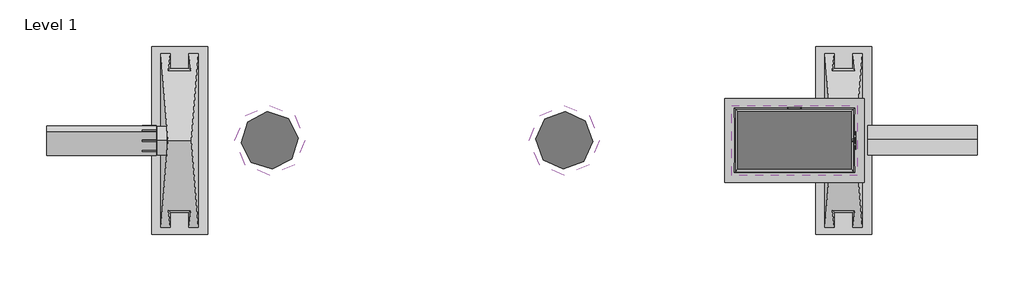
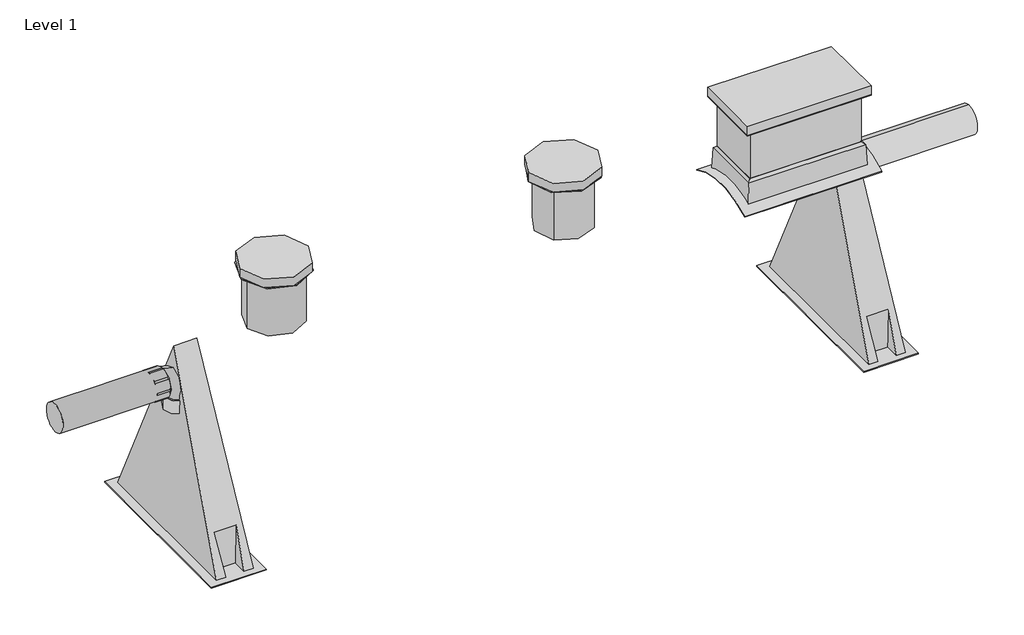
# One storey, incomplete: 12 proxies.
"""IFC4 building model written with IfcOpenShell, lengths in millimetres."""

import ifcopenshell
import ifcopenshell.guid

model = None  # the IFC model being written
_history = None  # IfcOwnerHistory: only IFC2X3 demands one
_inside = {}  # id of a spatial element -> (the spatial element, [elements in it])
_under = {}  # id of a project, library or spatial element -> (it, [spatial elements below it])
_declared = {}  # id of a project -> (the project, [libraries it declares])
_typed = {}  # id of a type object -> (the type object, [elements of that type])
_made_of = {}  # id of a material, layer set ... -> (it, [elements and type objects made of it])


def new_model(schema):
    """Start an empty IFC model of exactly this schema.

    Asked for "IFC4X3", IfcOpenShell would pick the latest addendum, in which some entities
    have other attributes; the version numbers below select the first issue.
    IFC2X3 requires an IfcOwnerHistory on every rooted entity: one is made here for all.
    """
    global model, _history
    if schema == "IFC4X3":
        model = ifcopenshell.file(schema_version=(4, 3, 0, 0))
    else:
        model = ifcopenshell.file(schema=schema)
    _inside.clear()
    _under.clear()
    _declared.clear()
    _typed.clear()
    _made_of.clear()
    _history = None
    if model.schema == "IFC2X3":
        org = make("IfcOrganization", Name="unknown")
        user = make(
            "IfcPersonAndOrganization",
            ThePerson=make("IfcPerson", FamilyName="unknown"),
            TheOrganization=org,
        )
        app = make(
            "IfcApplication",
            ApplicationDeveloper=org,
            Version="unknown",
            ApplicationFullName="unknown",
            ApplicationIdentifier="unknown",
        )
        _history = make(
            "IfcOwnerHistory",
            OwningUser=user,
            OwningApplication=app,
            ChangeAction="ADDED",
            CreationDate=0,
        )
    return model


def make(cls, **values):
    """One entity of the class cls with the attributes given. An attribute that is None is left unset."""
    return model.create_entity(
        cls, **{name: value for name, value in values.items() if value is not None}
    )


def rooted(cls, **values):
    """An entity with a GlobalId (a new one), such as an element, a storey or a relation."""
    return make(cls, GlobalId=ifcopenshell.guid.new(), OwnerHistory=_history, **values)


def si_unit(unit_type, name, prefix=None):
    """IfcSIUnit, for example si_unit("LENGTHUNIT", "METRE", prefix="MILLI")."""
    return make("IfcSIUnit", UnitType=unit_type, Prefix=prefix, Name=name)


def assignment(units):
    """IfcUnitAssignment: the units of a project."""
    return None if units is None else make("IfcUnitAssignment", Units=units)


def point(xyz):
    """IfcCartesianPoint."""
    return None if xyz is None else make("IfcCartesianPoint", Coordinates=xyz)


def direction(xyz):
    """IfcDirection."""
    return None if xyz is None else make("IfcDirection", DirectionRatios=xyz)


def frame(location, z_axis=None, x_axis=None):
    """IfcAxis2Placement3D, a coordinate frame: its origin and axes. An axis left out is left unset."""
    return make(
        "IfcAxis2Placement3D",
        Location=point(location),
        Axis=direction(z_axis),
        RefDirection=direction(x_axis),
    )


def frame_2d(location, x_axis=None):
    """IfcAxis2Placement2D, a coordinate frame in the plane: its origin and x axis."""
    return make(
        "IfcAxis2Placement2D", Location=point(location), RefDirection=direction(x_axis)
    )


def origin():
    """The frame at (0, 0, 0) with its axes left unset."""
    return frame((0.0, 0.0, 0.0))


def origin_2d():
    """The frame at (0, 0) in the plane with its x axis left unset."""
    return frame_2d((0.0, 0.0))


def place(relative_to, where):
    """IfcLocalPlacement: puts the frame where relative to a parent placement (None: the world)."""
    return make(
        "IfcLocalPlacement", PlacementRelTo=relative_to, RelativePlacement=where
    )


def context(
    kind, dimensions, precision=None, world=None, true_north=None, identifier=None
):
    """IfcGeometricRepresentationContext, for example the 3D "Model" context."""
    return make(
        "IfcGeometricRepresentationContext",
        ContextIdentifier=identifier,
        ContextType=kind,
        CoordinateSpaceDimension=dimensions,
        Precision=precision,
        WorldCoordinateSystem=world,
        TrueNorth=true_north,
    )


def project(units=None, contexts=None):
    """IfcProject with its units and contexts."""
    return rooted(
        "IfcProject",
        Name="project",
        RepresentationContexts=contexts,
        UnitsInContext=assignment(units),
    )


def spatial(cls, under=None, at=None, **own):
    """A site, building, storey or space (cls), placed at a placement, below another one or the project."""
    s = rooted(cls, ObjectPlacement=at, **own)
    if under is not None:
        _under.setdefault(under.id(), (under, []))[1].append(s)
    return s


def polyline(points):
    """IfcPolyline through the points."""
    return make("IfcPolyline", Points=[point(p) for p in points])


def circle_curve(where, radius):
    """IfcCircle in the frame where."""
    return make("IfcCircle", Position=where, Radius=radius)


def ellipse_curve(where, semi_axis1, semi_axis2):
    """IfcEllipse in the frame where."""
    return make(
        "IfcEllipse", Position=where, SemiAxis1=semi_axis1, SemiAxis2=semi_axis2
    )


def trimmed(basis, trim1, trim2, sense, master):
    """IfcTrimmedCurve: the piece of a basis curve between two trims."""
    return make(
        "IfcTrimmedCurve",
        BasisCurve=basis,
        Trim1=trim1,
        Trim2=trim2,
        SenseAgreement=sense,
        MasterRepresentation=master,
    )


def segment(curve, same_sense, transition):
    """IfcCompositeCurveSegment."""
    return make(
        "IfcCompositeCurveSegment",
        Transition=transition,
        SameSense=same_sense,
        ParentCurve=curve,
    )


def composite_curve(segments, self_intersect=None):
    """IfcCompositeCurve: segments joined end to end."""
    return make("IfcCompositeCurve", Segments=segments, SelfIntersect=self_intersect)


def outline(outer, holes=None, kind="AREA"):
    """IfcArbitraryClosedProfileDef: a profile drawn as a closed curve; with holes, ...WithVoids."""
    if holes is None:
        return make("IfcArbitraryClosedProfileDef", ProfileType=kind, OuterCurve=outer)
    return make(
        "IfcArbitraryProfileDefWithVoids",
        ProfileType=kind,
        OuterCurve=outer,
        InnerCurves=holes,
    )


def extrude(swept, where, along, depth):
    """IfcExtrudedAreaSolid: the profile swept, set in the frame where, extruded along a direction by depth."""
    return make(
        "IfcExtrudedAreaSolid",
        SweptArea=swept,
        Position=where,
        ExtrudedDirection=direction(along),
        Depth=depth,
    )


def faces_of(points, faces, orient=None, outer=None):
    """IfcFace entities. A face is a list of loops; a loop is a list of indices into points, from 0.

    orient and outer hold one flag for each loop. By default every Orientation is true, the
    first loop of a face is its IfcFaceOuterBound and the others are IfcFaceBound.
    """
    made = []
    for i, loops in enumerate(faces):
        bounds = []
        for j, loop in enumerate(loops):
            is_outer = j == 0 if outer is None else outer[i][j]
            bounds.append(
                make(
                    "IfcFaceOuterBound" if is_outer else "IfcFaceBound",
                    Bound=make("IfcPolyLoop", Polygon=[points[k] for k in loop]),
                    Orientation=True if orient is None else orient[i][j],
                )
            )
        made.append(make("IfcFace", Bounds=bounds))
    return made


def faceted_brep(points, faces, orient=None, outer=None, voids=None):
    """IfcFacetedBrep: a solid bounded by flat faces; with voids (closed shells), ...WithVoids."""
    shared = [point(p) for p in points]
    hull = make("IfcClosedShell", CfsFaces=faces_of(shared, faces, orient, outer))
    if voids is None:
        return make("IfcFacetedBrep", Outer=hull)
    return make(
        "IfcFacetedBrepWithVoids",
        Outer=hull,
        Voids=[
            make(cls, CfsFaces=faces_of(shared, fs, o, b)) for cls, fs, o, b in voids
        ],
    )


def shape(context_of_items, identifier, shape_type, items):
    """IfcShapeRepresentation: the items that make up one representation, for example the "Body"."""
    return make(
        "IfcShapeRepresentation",
        ContextOfItems=context_of_items,
        RepresentationIdentifier=identifier,
        RepresentationType=shape_type,
        Items=items,
    )


def source(mapping_origin, context_of_items, identifier, shape_type, items):
    """IfcRepresentationMap: a shape defined once, which mapped items show again and again."""
    return make(
        "IfcRepresentationMap",
        MappingOrigin=mapping_origin,
        MappedRepresentation=shape(context_of_items, identifier, shape_type, items),
    )


def transform(
    local_origin,
    x_axis=None,
    y_axis=None,
    z_axis=None,
    scale=None,
    scale2=None,
    scale3=None,
    uniform=True,
):
    """IfcCartesianTransformationOperator3D, or its non-uniform kind. x_axis, y_axis, z_axis: its Axis1, 2, 3."""
    if uniform:
        return make(
            "IfcCartesianTransformationOperator3D",
            Axis1=direction(x_axis),
            Axis2=direction(y_axis),
            LocalOrigin=point(local_origin),
            Scale=scale,
            Axis3=direction(z_axis),
        )
    return make(
        "IfcCartesianTransformationOperator3DnonUniform",
        Axis1=direction(x_axis),
        Axis2=direction(y_axis),
        LocalOrigin=point(local_origin),
        Scale=scale,
        Axis3=direction(z_axis),
        Scale2=scale2,
        Scale3=scale3,
    )


def mapped(mapping_source, mapping_target):
    """IfcMappedItem: shows the shape of a source again, moved by a transform."""
    return make(
        "IfcMappedItem", MappingSource=mapping_source, MappingTarget=mapping_target
    )


def made_of(thing, what):
    """Note that an element or type object is made of a material, layer set ...; save() writes the relation."""
    if what is not None:
        _made_of.setdefault(what.id(), (what, []))[1].append(thing)
    return thing


def element(
    cls,
    number,
    at=None,
    inside=None,
    cuts=None,
    type_object=None,
    material=None,
    context=None,
    identifier="Body",
    shape_type=None,
    held_by="IfcProductDefinitionShape",
    body=None,
    shapes=None,
    **own,
):
    """One element of the class cls, such as IfcWall. Its Tag is "e" and its number.

    at: its placement. inside: the storey or other place that contains it. cuts: it is an
    opening in that element (IfcRelVoidsElement). A single representation is given by context,
    identifier, shape_type and body (its items); several are given by shapes. held_by: the class
    of the entity that holds the representations. save() writes the other relations.
    """
    e = rooted(cls, Tag="e%d" % number, ObjectPlacement=at, **own)
    if body is not None:
        shapes = [shape(context, identifier, shape_type, body)]
    if shapes is not None:
        e.Representation = make(held_by, Representations=shapes)
    if inside is not None:
        _inside.setdefault(inside.id(), (inside, []))[1].append(e)
    if cuts is not None:
        rooted(
            "IfcRelVoidsElement", RelatingBuildingElement=cuts, RelatedOpeningElement=e
        )
    if type_object is not None:
        _typed.setdefault(type_object.id(), (type_object, []))[1].append(e)
    return made_of(e, material)


def aggregate(whole, parts):
    """IfcRelAggregates: a whole, such as a stair, and the parts it consists of."""
    return rooted("IfcRelAggregates", RelatingObject=whole, RelatedObjects=parts)


def save(model, path):
    """Write the relations noted so far, then the file.

    IfcRelAggregates (storeys below a building ...), IfcRelContainedInSpatialStructure (elements
    in a storey), IfcRelDefinesByType, IfcRelAssociatesMaterial and IfcRelDeclares: one each for
    every whole, place, type object, material and project.
    """
    for whole, parts in _under.values():
        aggregate(whole, parts)
    for where, things in _inside.values():
        rooted(
            "IfcRelContainedInSpatialStructure",
            RelatedElements=things,
            RelatingStructure=where,
        )
    for kind, things in _typed.values():
        rooted("IfcRelDefinesByType", RelatedObjects=things, RelatingType=kind)
    for what, things in _made_of.values():
        rooted("IfcRelAssociatesMaterial", RelatedObjects=things, RelatingMaterial=what)
    for by, libraries in _declared.values():
        rooted("IfcRelDeclares", RelatingContext=by, RelatedDefinitions=libraries)
    model.write(path)


def plane_surface(at):
    """IfcPlane: the flat surface through the origin of the frame at, square to its z axis."""
    return make("IfcPlane", Position=at)


def cylinder_surface(at, radius):
    """IfcCylindricalSurface: all points at the distance radius from the z axis of the frame at."""
    return make("IfcCylindricalSurface", Position=at, Radius=radius)


def revolved_surface(curve, axis_point, axis_direction):
    """IfcSurfaceOfRevolution: the curve turned about the line through axis_point along axis_direction."""
    return make(
        "IfcSurfaceOfRevolution",
        SweptCurve=make("IfcArbitraryOpenProfileDef", ProfileType="CURVE", Curve=curve),
        AxisPosition=make("IfcAxis1Placement", Location=point(axis_point), Axis=direction(axis_direction)),
    )


def advanced_brep(points, edges, surfaces, faces):
    """IfcAdvancedBrep: a solid bounded by faces that lie on surfaces and meet in shared edges.

    An edge is (start, end): straight between two places in points (the first is 0);
    or (start, end, curve); or (start, end, curve, False) where it runs against its curve.
    A face is (place in surfaces, loops), or (place, loops, False) where it looks against
    its surface's normal. A loop lists edges by number (the first is 1), with a minus sign
    where the edge is run from its end to its start. The first loop is the outer one.
    """
    corners = [point(p) for p in points]
    vertices = [make("IfcVertexPoint", VertexGeometry=c) for c in corners]
    made = []
    for start, end, *more in edges:
        made.append(
            make(
                "IfcEdgeCurve",
                EdgeStart=vertices[start],
                EdgeEnd=vertices[end],
                EdgeGeometry=more[0] if more else make("IfcPolyline", Points=[corners[start], corners[end]]),
                SameSense=more[1] if len(more) > 1 else True,
            )
        )
    hull = []
    for where, loops, *sense in faces:
        bounds = []
        for j, loop in enumerate(loops):
            ring = [make("IfcOrientedEdge", EdgeElement=made[abs(k) - 1], Orientation=k > 0) for k in loop]
            bounds.append(
                make(
                    "IfcFaceOuterBound" if j == 0 else "IfcFaceBound",
                    Bound=make("IfcEdgeLoop", EdgeList=ring),
                    Orientation=True,
                )
            )
        hull.append(make("IfcAdvancedFace", Bounds=bounds, FaceSurface=surfaces[where], SameSense=sense[0] if sense else True))
    return make("IfcAdvancedBrep", Outer=make("IfcClosedShell", CfsFaces=hull))


def generic_models_de51d8ae(model_context):
    return source(origin(), model_context, "Body", "AdvancedBrep", [
        advanced_brep(
        [(-375.0, 590.0, 0.0), (-375.0, 600.0, 0.0), (375.0, 600.0, 0.0), (375.0, 590.0, 0.0), (-308.0, 0.0, 0.0), (-308.0, 590.0, 0.0), (308.0, 590.0, 0.0), (308.0, 0.0, 0.0)],
        [
            (0, 1),
            (1, 2, circle_curve(frame((0.0, 600.0, 0.0), z_axis=(0.0, -1.0, 0.0), x_axis=(-1.0, 0.0, 0.0)), 375.0)),
            (2, 3),
            (3, 0, circle_curve(frame((0.0, 590.0, 0.0), z_axis=(0.0, 1.0, 0.0), x_axis=(-1.0, 0.0, 0.0)), 375.0)),
            (4, 5),
            (5, 6, circle_curve(frame((0.0, 590.0, 0.0), z_axis=(0.0, -1.0, 0.0), x_axis=(-1.0, 0.0, 0.0)), 308.0)),
            (6, 7),
            (7, 4, circle_curve(frame((0.0, 0.0, 0.0), z_axis=(0.0, 1.0, 0.0), x_axis=(-1.0, 0.0, 0.0)), 308.0)),
            (1, 2, circle_curve(frame((0.0, 600.0, 0.0), z_axis=(0.0, 1.0, 0.0), x_axis=(-1.0, 0.0, 0.0)), 375.0)),
            (7, 4, circle_curve(frame((0.0, 0.0, 0.0), z_axis=(0.0, -1.0, 0.0), x_axis=(-1.0, 0.0, 0.0)), 308.0)),
            (6, 5, circle_curve(frame((0.0, 590.0, 0.0), z_axis=(0.0, -1.0, 0.0), x_axis=(-1.0, 0.0, 0.0)), 308.0)),
            (3, 0, circle_curve(frame((0.0, 590.0, 0.0), z_axis=(0.0, -1.0, 0.0), x_axis=(-1.0, 0.0, 0.0)), 375.0)),
        ],
        [
            cylinder_surface(frame((0.0, 595.0, 0.0), z_axis=(0.0, 1.0, 0.0), x_axis=(-1.0, 0.0, 0.0)), 375.0),
            cylinder_surface(frame((0.0, 295.0, 0.0), z_axis=(0.0, 1.0, 0.0), x_axis=(-1.0, 0.0, 0.0)), 308.0),
            plane_surface(frame((-300.0, 600.0, 0.0), z_axis=(0.0, 1.0, 0.0), x_axis=(0.0, 0.0, 1.0))),
            plane_surface(frame((-308.0, 0.0, 0.0), z_axis=(0.0, -1.0, 0.0), x_axis=(0.0, 0.0, -1.0))),
            plane_surface(frame((-375.0, 590.0, 0.0), z_axis=(0.0, -1.0, 0.0), x_axis=(0.0, 0.0, -1.0))),
        ],
        [
            (0, [[1, 2, 3, 4]]),
            (1, [[5, 6, 7, 8]]),
            (2, [[9, -2]]),
            (3, [[10, -8]]),
            (1, [[-5, -10, -7, 11]]),
            (4, [[12, -4], [-11, -6]]),
            (0, [[-1, -12, -3, -9]]),
        ],
    ),
    ])


def generic_models_57929f39(model_context):
    return source(origin(), model_context, "Body", "Brep", [
        faceted_brep([(934.0, 0.0, 0.0), (0.0, 2118.0, 73.9621898), (0.0, 2118.0, 326.0378102), (934.0, 0.0, 400.0), (934.0, 0.0, 300.0), (750.3777149, 416.394004, 321.8222851), (750.3777149, 416.394004, 78.1777149), (934.0, 0.0, 100.0), (-934.0, 0.0, 400.0), (772.2, 0.0, 300.0), (772.2, 0.0, 100.0), (-934.0, 0.0, 0.0), (-934.0, 0.0, 100.0), (-750.3777149, 416.394004, 78.1777149), (-750.3777149, 416.394004, 321.8222851), (-934.0, 0.0, 300.0), (-772.2, 0.0, 100.0), (-772.2, 0.0, 300.0), (-1009.0, 0.0, 500.0), (1009.0, 0.0, 500.0), (1009.0, 0.0, -100.0), (-1009.0, 0.0, -100.0), (-1009.0, -10.0, 500.0), (-1009.0, -10.0, -100.0), (1009.0, -10.0, -100.0), (1009.0, -10.0, 500.0)], [[[0, 1, 2, 3, 4, 5, 6, 7]], [[3, 2, 8]], [[4, 9, 5]], [[9, 10, 6, 5]], [[10, 7, 6]], [[1, 11, 12, 13, 14, 15, 8, 2]], [[13, 16, 17, 14]], [[18, 19, 20, 21], [3, 8, 15, 17, 16, 12, 11, 0, 7, 10, 9, 4]], [[1, 0, 11]], [[14, 17, 15]], [[22, 23, 24, 25]], [[12, 16, 13]], [[19, 18, 22, 25]], [[20, 19, 25, 24]], [[21, 20, 24, 23]], [[18, 21, 23, 22]]]),
    ])


def generic_models_2a316d6d(model_context):
    return source(origin(), model_context, "Body", "SweptSolid", [
        extrude(outline(composite_curve([segment(trimmed(circle_curve(origin_2d(), 375.0), [point((0.0, 375.0))], [point((0.0, -375.0))], False, "CARTESIAN"), True, "CONTINUOUS"), segment(trimmed(circle_curve(origin_2d(), 375.0), [point((0.0, -375.0))], [point((0.0, 375.0))], False, "CARTESIAN"), True, "CONTINUOUS")], self_intersect=False)), frame((0.0, 0.0, 0.0), z_axis=(0.0, 1.0, 0.0), x_axis=(0.0, 0.0, 1.0)), (0.0, 0.0, 1.0), 100.0),
    ])


def generic_models_37cd0800(model_context):
    return source(origin(), model_context, "Body", "SweptSolid", [
        extrude(outline(polyline([(-375.0, 0.0), (-375.0, 100.0), (375.0, 100.0), (375.0, 0.0), (-375.0, 0.0)])), frame((0.0, 0.0, -675.0), z_axis=(0.0, 0.0, 1.0), x_axis=(1.0, 0.0, 0.0)), (0.0, 0.0, 1.0), 1350.0),
    ])


def generic_models_a9b11123(model_context):
    return source(origin(), model_context, "Body", "Brep", [
        faceted_brep([(308.0, -600.0, -608.0), (308.0, -600.0, 608.0), (-308.0, -600.0, 608.0), (-308.0, -600.0, -608.0), (375.0, 0.0, -675.0), (-375.0, 0.0, -675.0), (-375.0, 0.0, 675.0), (375.0, 0.0, 675.0), (-308.0, -10.0, -608.0), (308.0, -10.0, -608.0), (-375.0, -10.0, -675.0), (375.0, -10.0, -675.0), (375.0, -10.0, 675.0), (-375.0, -10.0, 675.0), (-308.0, -10.0, 608.0), (308.0, -10.0, 608.0)], [[[0, 1, 2, 3]], [[4, 5, 6, 7]], [[0, 3, 8, 9]], [[10, 11, 12, 13], [9, 8, 14, 15]], [[3, 2, 14, 8]], [[2, 1, 15, 14]], [[0, 9, 15, 1]], [[5, 4, 11, 10]], [[6, 5, 10, 13]], [[7, 6, 13, 12]], [[4, 7, 12, 11]]]),
    ])


def generic_models_b710c0a7(model_context):
    return source(origin(), model_context, "Body", "AdvancedBrep", [
        advanced_brep(
        [(296.4984069, 250.0, -596.4984069), (-296.4984069, 250.0, -596.4984069), (-296.4984069, 250.0, 596.4984069), (296.4984069, 250.0, 596.4984069), (298.0, 207.0, -598.0), (-298.0, 207.0, -598.0), (-298.0, 207.0, 598.0), (298.0, 207.0, 598.0), (-450.0, -99.8385062, 750.0), (450.0, -99.8385062, 750.0), (450.0, -99.8385062, -750.0), (-450.0, -99.8385062, -750.0), (-347.7562357, -50.8590545, -80.0415625), (-347.7562357, -50.8590545, -647.7562357), (347.7562357, -50.8590545, -647.7562357), (347.7562357, -50.8590545, 647.7562357), (-347.7562357, -50.8590545, 647.7562357), (-347.7562357, -50.8590545, 80.0415625), (-352.0, -52.5930793, 80.1802845), (-352.0, -52.5930793, -80.1802845), (-338.1192031, 178.0204704, -638.1192031), (338.1192031, 178.0204704, -638.1192031), (-342.353871, 77.447108, -69.7770695), (-342.353871, 77.447108, 69.7770695), (-338.1192031, 178.0204704, 638.1192031), (-309.1396735, 207.0, -609.1396735), (309.1396735, 207.0, -609.1396735), (338.1192031, 178.0204704, 638.1192031), (-309.1396735, 207.0, 609.1396735), (309.1396735, 207.0, 609.1396735), (-352.0, 77.447108, 69.7770695), (-352.0, 77.447108, -69.7770695), (-450.0, -107.8600122, -750.0), (-450.0, -107.8600122, 750.0), (450.0, -107.8600122, -750.0), (450.0, -107.8600122, 750.0)],
        [
            (0, 1),
            (1, 2),
            (2, 3),
            (3, 0),
            (0, 4),
            (4, 5),
            (5, 1),
            (5, 6),
            (6, 2),
            (3, 7),
            (7, 4),
            (6, 7),
            (8, 9, circle_curve(frame((0.0, -908.0, 750.0), z_axis=(0.0, 0.0, -1.0), x_axis=(0.4864864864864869, 0.8736881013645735, 0.0)), 925.0)),
            (9, 10),
            (10, 11, circle_curve(frame((0.0, -908.0, -750.0), z_axis=(0.0, 0.0, 1.0), x_axis=(0.4864864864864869, 0.8736881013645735, 0.0)), 925.0)),
            (11, 8),
            (12, 13),
            (13, 14, ellipse_curve(frame((0.0, -908.0, -683.8463808), z_axis=(0.0, 0.04206798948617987, -0.9991147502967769), x_axis=(0.0, 0.9991147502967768, 0.042067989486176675)), 925.8195815, 925.0)),
            (14, 15),
            (15, 16, ellipse_curve(frame((0.0, -908.0, 683.8463808), z_axis=(0.0, 0.04206798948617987, 0.9991147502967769), x_axis=(0.0, -0.9991147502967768, 0.042067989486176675)), 925.8195815, 925.0)),
            (16, 17),
            (17, 18, ellipse_curve(frame((0.0, -908.0, 148.6128381), z_axis=(0.0, 0.07974522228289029, 0.9968152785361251), x_axis=(0.0, -0.9968152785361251, 0.07974522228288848)), 927.9552791, 925.0)),
            (18, 19),
            (19, 12, ellipse_curve(frame((0.0, -908.0, -148.6128381), z_axis=(0.0, 0.07974522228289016, -0.9968152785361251), x_axis=(0.0, 0.9968152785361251, 0.0797452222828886)), 927.9552791, 925.0)),
            (13, 20),
            (20, 21),
            (21, 14),
            (12, 22),
            (22, 23, ellipse_curve(frame((-342.5889096, 71.8649424, 0.0), z_axis=(0.9991147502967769, -0.04206798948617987, 0.0), x_axis=(-0.042067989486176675, -0.9991147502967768, 0.0)), 70.0620224, 70.0)),
            (23, 17),
            (16, 24),
            (24, 20),
            (20, 25),
            (25, 26),
            (26, 21),
            (15, 27),
            (27, 24),
            (24, 28),
            (28, 25),
            (27, 21),
            (26, 29),
            (29, 27),
            (29, 28),
            (23, 30),
            (30, 18),
            (19, 31),
            (31, 22),
            (30, 31, circle_curve(frame((-352.0, 71.8649424, 0.0), z_axis=(-1.0, 0.0, 0.0), x_axis=(0.0, 0.07974522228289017, -0.996815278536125)), 70.0)),
            (11, 32),
            (32, 33),
            (33, 8),
            (32, 34, circle_curve(frame((0.0, -908.0, -750.0), z_axis=(0.0, 0.0, -1.0), x_axis=(-0.49019607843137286, -0.8716121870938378, 0.0)), 918.0)),
            (34, 35),
            (35, 33, circle_curve(frame((0.0, -908.0, 750.0), z_axis=(0.0, 0.0, 1.0), x_axis=(-0.49019607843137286, -0.8716121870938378, 0.0)), 918.0)),
            (9, 35),
            (34, 10),
        ],
        [
            plane_surface(frame((248.0, 250.0, -596.4984069), z_axis=(0.0, 1.0, 0.0), x_axis=(0.0, 0.0, 1.0))),
            plane_surface(frame((-248.0, 207.0, -598.0), z_axis=(0.0, 0.03489949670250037, -0.9993908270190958), x_axis=(0.0, 0.9993908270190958, 0.03489949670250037))),
            plane_surface(frame((-298.0, 207.0, 548.0), z_axis=(-0.9993908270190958, 0.03489949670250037, 0.0), x_axis=(0.03489949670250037, 0.9993908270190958, 0.0))),
            plane_surface(frame((298.0, 207.0, -548.0), z_axis=(0.9993908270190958, 0.03489949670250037, 0.0), x_axis=(-0.03489949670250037, 0.9993908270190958, 0.0))),
            plane_surface(frame((248.0, 207.0, 598.0), z_axis=(0.0, 0.03489949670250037, 0.9993908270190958), x_axis=(0.0, 0.9993908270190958, -0.03489949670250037))),
            cylinder_surface(frame((0.0, -908.0, 0.0), z_axis=(0.0, 0.0, 1.0), x_axis=(0.4864864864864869, 0.8736881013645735, 0.0)), 925.0),
            plane_surface(frame((-248.0, -299.4172684, -658.2218447), z_axis=(0.0, 0.04206798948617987, -0.9991147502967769), x_axis=(0.0, 0.9991147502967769, 0.04206798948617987))),
            plane_surface(frame((-358.2218447, -299.4172684, 548.0), z_axis=(-0.9991147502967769, 0.04206798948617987, 0.0), x_axis=(0.04206798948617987, 0.9991147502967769, 0.0))),
            plane_surface(frame((-248.0, 178.0204704, -638.1192031), z_axis=(0.0, 0.7071067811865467, -0.7071067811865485), x_axis=(0.0, 0.7071067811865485, 0.7071067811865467))),
            plane_surface(frame((248.0, -299.4172684, 658.2218447), z_axis=(0.0, 0.04206798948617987, 0.9991147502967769), x_axis=(0.0, 0.9991147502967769, -0.04206798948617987))),
            plane_surface(frame((-338.1192031, 178.0204704, 548.0), z_axis=(-0.7071067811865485, 0.7071067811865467, 0.0), x_axis=(0.7071067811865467, 0.7071067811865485, 0.0))),
            plane_surface(frame((338.1192031, 178.0204704, -548.0), z_axis=(0.7071067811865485, 0.7071067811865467, 0.0), x_axis=(-0.7071067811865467, 0.7071067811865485, 0.0))),
            plane_surface(frame((358.2218447, -299.4172684, -548.0), z_axis=(0.9991147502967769, 0.04206798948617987, 0.0), x_axis=(-0.04206798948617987, 0.9991147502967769, 0.0))),
            plane_surface(frame((248.0, 178.0204704, 638.1192031), z_axis=(0.0, 0.7071067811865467, 0.7071067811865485), x_axis=(0.0, 0.7071067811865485, -0.7071067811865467))),
            plane_surface(frame((0.0, -169.1602084, 89.5056548), z_axis=(0.0, 0.07974522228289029, 0.9968152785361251), x_axis=(0.0, 0.9968152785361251, -0.07974522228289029))),
            plane_surface(frame((0.0, 77.447108, -69.7770695), z_axis=(0.0, 0.07974522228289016, -0.9968152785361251), x_axis=(0.0, -0.9968152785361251, -0.07974522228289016))),
            plane_surface(frame((-352.0, -13.647633, 0.0), z_axis=(-1.0, 0.0, 0.0), x_axis=(0.0, 0.0, -1.0))),
            cylinder_surface(frame((0.0, 71.8649424, 0.0), z_axis=(-0.9999999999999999, 0.0, 0.0), x_axis=(0.0, 0.07974522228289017, -0.996815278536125)), 70.0),
            plane_surface(frame((248.0, 207.0, -609.1396735), z_axis=(0.0, 1.0, 0.0), x_axis=(0.0, 0.0, 1.0))),
            plane_surface(frame((-450.0, -99.8385062, 0.0), z_axis=(-1.0, 0.0, 0.0), x_axis=(0.0, -1.0, 0.0))),
            revolved_surface(polyline([(-450.0000000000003, -1708.139987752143, 750.0), (-450.0000000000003, -1708.139987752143, -750.0)]), (0.0, -908.0, 0.0), (0.0, 0.0, 1.0)),
            plane_surface(frame((450.0, -107.8600122, 0.0), z_axis=(1.0, 0.0, 0.0), x_axis=(0.0, 1.0, 0.0))),
            plane_surface(frame((0.0, -45.4300061, 750.0), z_axis=(0.0, 0.0, 1.0), x_axis=(1.0, 0.0, 0.0))),
            plane_surface(frame((0.0, -45.4300061, -750.0), z_axis=(0.0, 0.0, -1.0), x_axis=(1.0, 0.0, 0.0))),
        ],
        [
            (0, [[1, 2, 3, 4]]),
            (1, [[-1, 5, 6, 7]]),
            (2, [[-7, 8, 9, -2]]),
            (3, [[-4, 10, 11, -5]]),
            (4, [[-3, -9, 12, -10]]),
            (5, [[13, 14, 15, 16], [17, 18, 19, 20, 21, 22, 23, 24]]),
            (6, [[25, 26, 27, -18]]),
            (7, [[-17, 28, 29, 30, -21, 31, 32, -25]]),
            (8, [[-26, 33, 34, 35]]),
            (9, [[-20, 36, 37, -31]]),
            (10, [[-32, 38, 39, -33]]),
            (11, [[40, -35, 41, 42]]),
            (12, [[-27, -40, -36, -19]]),
            (13, [[-37, -42, 43, -38]]),
            (14, [[-22, -30, 44, 45]]),
            (15, [[-24, 46, 47, -28]]),
            (16, [[-46, -23, -45, 48]]),
            (17, [[-48, -44, -29, -47]]),
            (18, [[-34, -39, -43, -41], [-6, -11, -12, -8]]),
            (19, [[-16, 49, 50, 51]]),
            (20, [[-50, 52, 53, 54]]),
            (21, [[-14, 55, -53, 56]]),
            (22, [[-51, -54, -55, -13]]),
            (23, [[-49, -15, -56, -52]]),
        ],
    ),
    ])


def iso_4065_pipe_dn315x2_5xs63_1365_25acaa2f(model_context):
    return source(origin(), model_context, "Body", "SweptSolid", [
        extrude(outline(composite_curve([segment(trimmed(circle_curve(origin_2d(), 157.5), [point((157.5, 0.0))], [point((-157.5, 0.0))], False, "CARTESIAN"), True, "CONTINUOUS"), segment(trimmed(circle_curve(origin_2d(), 157.5), [point((-157.5, 0.0))], [point((157.5, 0.0))], False, "CARTESIAN"), True, "CONTINUOUS")], self_intersect=False)), frame((0.0, 0.0, 0.0), z_axis=(1.0, 0.0, 0.0), x_axis=(0.0, 1.0, 0.0)), (0.0, 0.0, 1.0), 1175.0),
    ])


def inletpipeelbow_300d_10dc9381(model_context):
    return source(origin(), model_context, "Body", "AdvancedBrep", [
        advanced_brep(
        [(0.0, 155.0, 0.0), (-315.0, -160.0, 0.0), (-5.0, -160.0, 0.0), (0.0, -155.0, 0.0), (1.0, -170.3923048, 0.0), (-321.0, -170.3923048, 0.0), (-160.0, -160.0, -155.0), (1.0, -320.0, 0.0), (-321.0, -320.0, 0.0), (10.3923048, -161.0, 0.0), (10.3923048, 161.0, 0.0), (159.9966666, -161.0, 0.0), (159.9966666, 161.0, 0.0)],
        [
            (0, 1, circle_curve(frame((0.0, -160.0, 0.0), z_axis=(0.0, 0.0, 1.0), x_axis=(0.0, 1.0, 0.0)), 315.0)),
            (1, 2, circle_curve(frame((-160.0, -160.0, 0.0), z_axis=(0.0, 1.0, 0.0), x_axis=(-1.0, 0.0, 0.0)), 155.0)),
            (2, 3, circle_curve(frame((0.0, -160.0, 0.0), z_axis=(0.0, 0.0, -1.0), x_axis=(0.0, 1.0, 0.0)), 5.0)),
            (3, 0, circle_curve(frame((0.0, 0.0, 0.0), z_axis=(-1.0, 0.0, 0.0), x_axis=(0.0, 1.0, 0.0)), 155.0)),
            (2, 4),
            (4, 5, circle_curve(frame((-160.0, -170.3923048, 0.0), z_axis=(0.0, 1.0, 0.0), x_axis=(-1.0, 0.0, 0.0)), 161.0)),
            (5, 1),
            (1, 6, circle_curve(frame((-160.0, -160.0, 0.0), z_axis=(0.0, -1.0, 0.0), x_axis=(-1.0, 0.0, 0.0)), 155.0)),
            (6, 2, circle_curve(frame((-160.0, -160.0, 0.0), z_axis=(0.0, -1.0, 0.0), x_axis=(-1.0, 0.0, 0.0)), 155.0)),
            (4, 7),
            (7, 8, circle_curve(frame((-160.0, -320.0, 0.0), z_axis=(0.0, 1.0, 0.0), x_axis=(1.0, 0.0, 0.0)), 161.0)),
            (8, 5),
            (3, 9),
            (9, 10, circle_curve(frame((10.3923048, 0.0, 0.0), z_axis=(-1.0, 0.0, 0.0), x_axis=(0.0, 1.0, 0.0)), 161.0)),
            (10, 0),
            (9, 11),
            (11, 12, circle_curve(frame((159.9966666, 0.0, 0.0), z_axis=(-1.0, 0.0, 0.0), x_axis=(0.0, -1.0, 0.0)), 161.0)),
            (12, 10),
            (9, 10, circle_curve(frame((10.3923048, 0.0, 0.0), z_axis=(1.0, 0.0, 0.0), x_axis=(0.0, -1.0, 0.0)), 161.0)),
            (12, 11, circle_curve(frame((159.9966666, 0.0, 0.0), z_axis=(-1.0, 0.0, 0.0), x_axis=(0.0, -1.0, 0.0)), 161.0)),
            (3, 0, circle_curve(frame((0.0, 0.0, 0.0), z_axis=(1.0, 0.0, 0.0), x_axis=(0.0, -1.0, 0.0)), 155.0)),
            (4, 5, circle_curve(frame((-160.0, -170.3923048, 0.0), z_axis=(0.0, -1.0, 0.0), x_axis=(1.0, 0.0, 0.0)), 161.0)),
            (8, 7, circle_curve(frame((-160.0, -320.0, 0.0), z_axis=(0.0, 1.0, 0.0), x_axis=(1.0, 0.0, 0.0)), 161.0)),
        ],
        [
            revolved_surface(trimmed(ellipse_curve(frame((0.0, 0.0, 0.0), z_axis=(1.0, 0.0, 0.0), x_axis=(0.0, 1.0, 0.0)), 155.0, 155.0), [point((0.0, 155.0, 0.0))], [point((0.0, -155.0, 0.0))], True, "CARTESIAN"), (0.0, -160.0, 0.0), (0.0, 0.0, 1.0)),
            revolved_surface(polyline([(-4.999999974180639, -160.0, 0.0), (1.0, -170.39230480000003, 0.0)]), (-160.0, 108.4678752, 0.0), (0.0, -1.0, 0.0)),
            cylinder_surface(frame((-160.0, -244.830127, 0.0), z_axis=(0.0, -1.0, 0.0), x_axis=(1.0, 0.0, 0.0)), 161.0),
            revolved_surface(polyline([(0.0, -155.00000002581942, 0.0), (10.392304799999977, -161.0, 0.0)]), (-268.4678752, 0.0, 0.0), (1.0, 0.0, 0.0)),
            cylinder_surface(frame((84.8284603, 0.0, 0.0), z_axis=(1.0, 0.0, 0.0), x_axis=(0.0, -1.0, 0.0)), 161.0),
            plane_surface(frame((159.9966666, -156.0, 0.0), z_axis=(1.0, 0.0, 0.0), x_axis=(0.0, 0.0, -1.0))),
            plane_surface(frame((-4.0, -320.0, 0.0), z_axis=(0.0, -1.0, 0.0), x_axis=(0.0, 0.0, -1.0))),
            revolved_surface(trimmed(ellipse_curve(frame((0.0, 0.0, 0.0), z_axis=(1.0, 0.0, 0.0), x_axis=(0.0, 1.0, 0.0)), 155.0, 155.0), [point((0.0, -155.0, 0.0))], [point((0.0, 155.0, 0.0))], True, "CARTESIAN"), (0.0, -160.0, 0.0), (0.0, 0.0, 1.0)),
        ],
        [
            (0, [[1, 2, 3, 4]]),
            (1, [[5, 6, 7, 8, 9]]),
            (2, [[10, 11, 12, -6]]),
            (3, [[13, 14, 15, -4]]),
            (4, [[16, 17, 18, -14]]),
            (4, [[-16, 19, -18, 20]]),
            (3, [[-13, 21, -15, -19]]),
            (2, [[-10, 22, -12, 23]]),
            (5, [[-17, -20]]),
            (6, [[-23, -11]]),
            (1, [[-5, -2, -7, -22]]),
            (7, [[-1, -21, -3, -9, -8]]),
        ],
    ),
    ])


model = new_model("IFC4")

# Units and contexts
model_context = context("Model", 3, world=origin())
ifc_project = project(units=[si_unit("LENGTHUNIT", "METRE", prefix="MILLI")], contexts=[model_context])

# Site, building, storey
site = spatial("IfcSite", under=ifc_project)
building = spatial("IfcBuilding", under=site)
storey = spatial("IfcBuildingStorey", under=building, Name="Level 1", Elevation=0.0)

# Proxies
placement = place(None, origin())
generic_models_shape = generic_models_de51d8ae(model_context)
element("IfcBuildingElementProxy", 1, Name="SU.600mmDia.ManwayRiser.600-10", ObjectType="SU.600mmDia.ManwayRiser.600-10", at=placement, inside=storey, context=model_context, shape_type="MappedRepresentation", body=[
    mapped(generic_models_shape, transform((-5238.9645853, 0.0, 754.9492089), x_axis=(0.9963198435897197, 0.0857132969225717, 0.0), y_axis=(0.0, 0.0, 1.0000000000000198), z_axis=(0.0857132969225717, -0.9963198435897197, 0.0))),
])
element("IfcBuildingElementProxy", 2, Name="SU.600mmDia.ManwayRiser.600-10", ObjectType="SU.600mmDia.ManwayRiser.600-10", at=placement, inside=storey, context=model_context, shape_type="MappedRepresentation", body=[
    mapped(generic_models_shape, transform((-2078.9645853, 0.0, 754.9492089), x_axis=(-0.7350844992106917, -0.6779755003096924, 0.0), y_axis=(0.0, 0.0, 0.9999999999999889), z_axis=(-0.6779755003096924, 0.7350844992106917, 0.0))),
])
generic_models_2_shape = generic_models_57929f39(model_context)
element("IfcBuildingElementProxy", 3, Name="SU.HS.FOOT.1850", ObjectType="SU.HS.FOOT.1850", at=placement, inside=storey, context=model_context, shape_type="MappedRepresentation", body=[
    mapped(generic_models_2_shape, transform((-6407.0969573, 0.0, -1304.0507911), x_axis=(0.0, 1.0, 0.0), y_axis=(0.0, 0.0, 1.0), z_axis=(1.0, 0.0, 0.0))),
])
element("IfcBuildingElementProxy", 4, Name="SU.HS.FOOT.1850", ObjectType="SU.HS.FOOT.1850", at=placement, inside=storey, context=model_context, shape_type="MappedRepresentation", body=[
    mapped(generic_models_2_shape, transform((718.395767, 0.0, -1304.0507911), x_axis=(0.0, 1.0, 0.0), y_axis=(0.0, 0.0, 1.0), z_axis=(1.0, 0.0, 0.0))),
])
generic_models_3_shape = generic_models_2a316d6d(model_context)
element("IfcBuildingElementProxy", 5, Name="600mmDia Manway Cover", ObjectType="600mmDia Manway Cover", at=placement, inside=storey, context=model_context, shape_type="MappedRepresentation", body=[
    mapped(generic_models_3_shape, transform((-2078.9645853, 0.0, 1354.9492089), x_axis=(1.0, 0.0, 0.0), y_axis=(0.0, 0.0, 1.0), z_axis=(0.0, -1.0, 0.0))),
])
element("IfcBuildingElementProxy", 6, Name="600mmDia Manway Cover", ObjectType="600mmDia Manway Cover", at=placement, inside=storey, context=model_context, shape_type="MappedRepresentation", body=[
    mapped(generic_models_3_shape, transform((-5238.9645853, 0.0, 1354.9492089), x_axis=(1.0, 0.0, 0.0), y_axis=(0.0, 0.0, 1.0), z_axis=(0.0, -1.0, 0.0))),
])
generic_models_4_shape = generic_models_37cd0800(model_context)
element("IfcBuildingElementProxy", 7, Name="600x 1200mm Manway Cover", ObjectType="600x 1200mm Manway Cover", at=placement, inside=storey, context=model_context, shape_type="MappedRepresentation", body=[
    mapped(generic_models_4_shape, transform((391.0000542, 0.0, 1354.9492089), x_axis=(0.0, 1.0, 0.0), y_axis=(0.0, 0.0, 1.0), z_axis=(1.0, 0.0, 0.0))),
])
generic_models_5_shape = generic_models_a9b11123(model_context)
element("IfcBuildingElementProxy", 8, Name="600x1200 Manway Riser", ObjectType="600x1200 Manway Riser", at=placement, inside=storey, context=model_context, shape_type="MappedRepresentation", body=[
    mapped(generic_models_5_shape, transform((391.0000542, 0.0, 1354.9492089), x_axis=(0.0, 1.0, 0.0), y_axis=(0.0, 0.0, 1.0), z_axis=(1.0, 0.0, 0.0))),
])
generic_models_6_shape = generic_models_b710c0a7(model_context)
element("IfcBuildingElementProxy", 9, Name="SU.MRADAPTOR.1850.600Lx1200W", ObjectType="SU.MRADAPTOR.1850.600Lx1200W", at=placement, inside=storey, context=model_context, shape_type="MappedRepresentation", body=[
    mapped(generic_models_6_shape, transform((391.0000542, 0.0, 587.9492089), x_axis=(0.0, -1.0, 0.0), y_axis=(0.0, 0.0, 1.0), z_axis=(-1.0, 0.0, 0.0))),
])
iso_4065_pipe_dn315x2_5xs63_1365_shape = iso_4065_pipe_dn315x2_5xs63_1365_25acaa2f(model_context)
element("IfcBuildingElementProxy", 10, Name="ISO 4065 Pipe DN315x2.5xS63 - 1365", ObjectType="ISO 4065 Pipe DN315x2.5xS63 - 1365", at=placement, inside=storey, context=model_context, shape_type="MappedRepresentation", body=[
    mapped(iso_4065_pipe_dn315x2_5xs63_1365_shape, transform((-6459.9999458, -4.015319, 442.9386434), x_axis=(-1.0000000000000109, 0.0, 0.0), y_axis=(0.0, -0.643467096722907, -0.7654737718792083), z_axis=(0.0, -0.7654737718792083, 0.643467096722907))),
])
element("IfcBuildingElementProxy", 11, Name="ISO 4065 Pipe DN315x2.5xS63 - 1365", ObjectType="ISO 4065 Pipe DN315x2.5xS63 - 1365", at=placement, inside=storey, context=model_context, shape_type="MappedRepresentation", body=[
    mapped(iso_4065_pipe_dn315x2_5xs63_1365_shape, transform((1179.4286256, 0.0, 392.9492089), x_axis=(0.9999999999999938, 0.0, 0.0), y_axis=(0.0, 0.0634576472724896, 0.9979845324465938), z_axis=(0.0, -0.9979845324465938, 0.0634576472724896))),
])
inletpipeelbow_300d_shape = inletpipeelbow_300d_10dc9381(model_context)
element("IfcBuildingElementProxy", 12, Name="InletPipeElbow.300D", ObjectType="InletPipeElbow.300D", at=placement, inside=storey, context=model_context, shape_type="MappedRepresentation", body=[
    mapped(inletpipeelbow_300d_shape, transform((-6449.9999458, -4.015319, 442.9386434), x_axis=(-1.0, 0.0, 0.0), y_axis=(0.0, 0.0, 1.0), z_axis=(0.0, 1.0, 0.0))),
])

save(model, "model.ifc")
